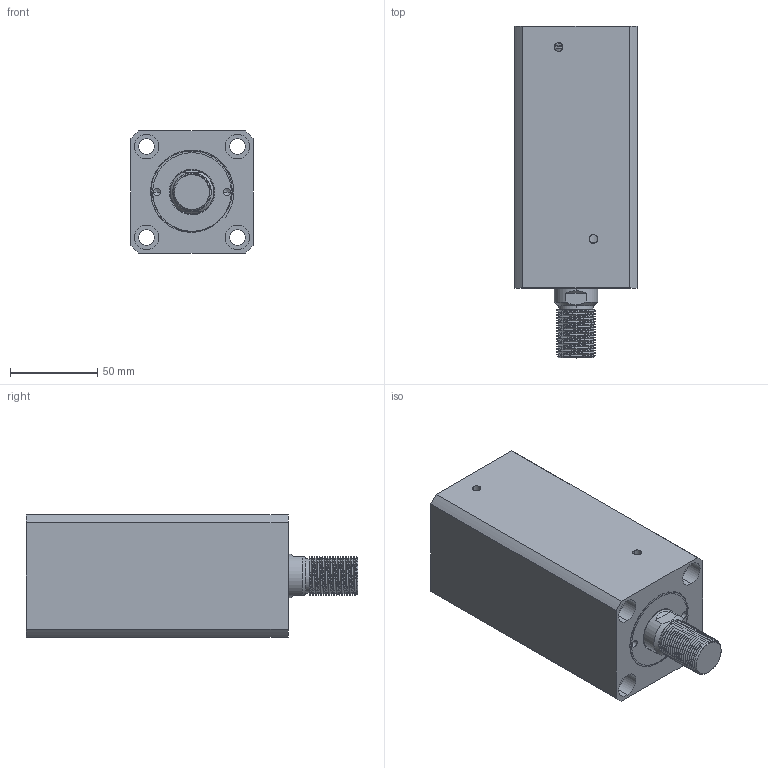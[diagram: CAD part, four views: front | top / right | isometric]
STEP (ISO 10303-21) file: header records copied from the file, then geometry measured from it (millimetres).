
FILE_DESCRIPTION (( 'STEP AP214' ), '1' );
FILE_NAME ('chtb-sdmb40x95w_asm.STEP', '2018-06-07T01:05:54', ( 'Windows' ), ( 'Microsoft' ), 'SwSTEP 2.0', 'SolidWorks 2015', '' );
FILE_SCHEMA (( 'AUTOMOTIVE_DESIGN' ));
Length unit declared in the file: millimetre
Products named in the file (4): CHTB-SD40QG; CHTB-SDMB40X95NBT; CHTB-SD40X95WHSG; chtb-sdmb40x95w_asm
Assembly tree (3 placements, depth 2):
  chtb-sdmb40x95w_asm
    CHTB-SD40X95WHSG
    CHTB-SDMB40X95NBT
    CHTB-SD40QG
Bounding box: 70 x 190 x 70 mm (x, y, z)
Volume: 619256.1 mm3; surface area: 119618.4 mm2
Topology: 3 solids, 4 shells, 201 faces, 539 edges, 359 vertices
Faces by surface type: cylinder 122, plane 38, bspline 16, torus 14, cone 11
Entity records: 13455 total; most frequent: CARTESIAN_POINT 8586, ORIENTED_EDGE 1066, DIRECTION 904, EDGE_CURVE 533, AXIS2_PLACEMENT_3D 374, VERTEX_POINT 359, EDGE_LOOP 238, ADVANCED_FACE 201
